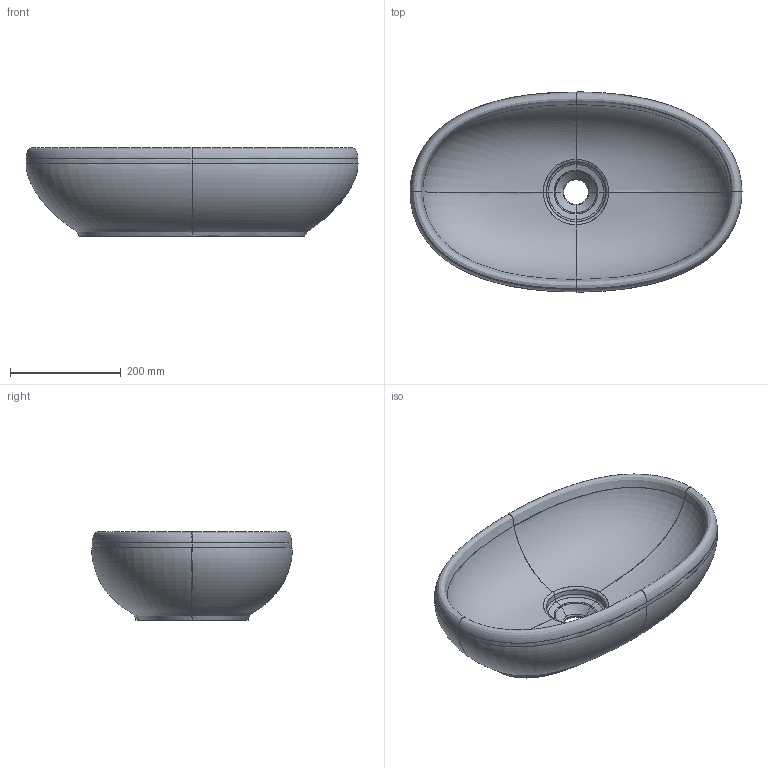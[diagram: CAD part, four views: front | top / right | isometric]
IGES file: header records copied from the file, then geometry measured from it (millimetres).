
Start section: START RECORD GO HERE.
Global section: file name: 7106_3D.igs; native system: DASSAULT SYSTEMES CATIA V5 R19 - www.3ds.com; preprocessor: CATIA Version 5 Release 19 SP 5 ; author: Luca; organization: DESKTOP-V7SON24; date: 20201027.121608; units: millimetre
Bounding box: 600.52 x 361.99 x 159.53 mm (x, y, z)
Surface area: 606416.4 mm2 (no closed solid volume)
Topology: 0 solids, 0 shells, 112 faces, 470 edges, 466 vertices
Faces by surface type: bspline 86, revolution 20, plane 6
